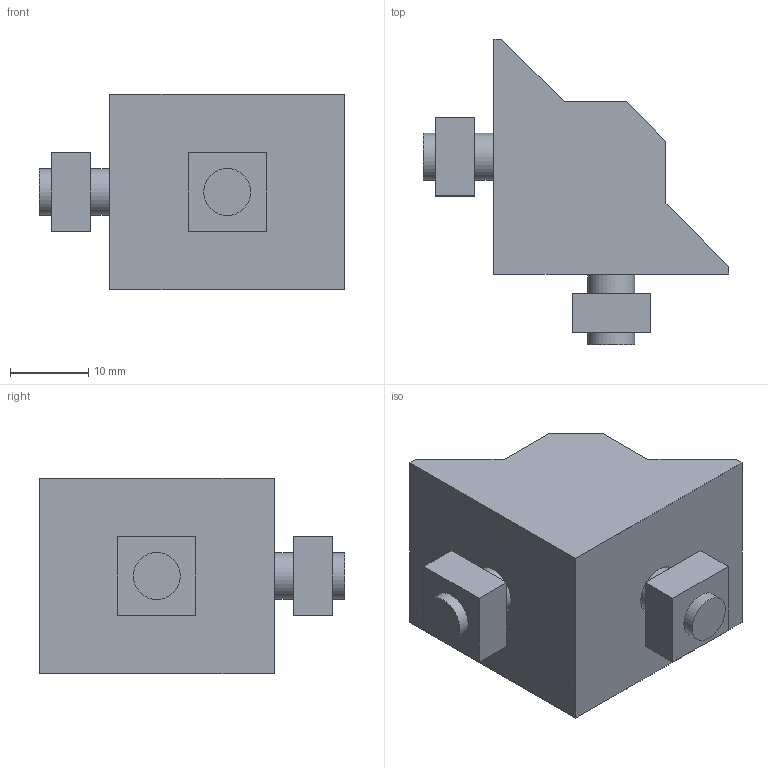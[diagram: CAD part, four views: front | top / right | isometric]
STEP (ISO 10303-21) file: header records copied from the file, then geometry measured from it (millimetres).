
FILE_DESCRIPTION((''),'2;1');
FILE_NAME('C:\Documents and Settings\古川典政\My Documents\Inventor\HP用\MasterData\BRACKET\M6\ABLB-3025-6.stp','2008-07-31T09:17:37',(''),(''),'Autodesk Inventor 2008','Autodesk Inventor 2008','');
FILE_SCHEMA(('CONFIG_CONTROL_DESIGN'));
Length unit declared in the file: millimetre
Products named in the file (6): ABLB-3025-6; ABLB-3025-61; ABLB-3025-62; ABLB-3025-63; ABLB-3025-64; ABLB-3025-65
Assembly tree (5 placements, depth 2):
  ABLB-3025-6
    ABLB-3025-61
    ABLB-3025-62
    ABLB-3025-63
    ABLB-3025-64
    ABLB-3025-65
Bounding box: 39 x 39 x 25 mm (x, y, z)
Volume: 13238.4 mm3; surface area: 6556.5 mm2
Topology: 5 solids, 5 shells, 46 faces, 100 edges, 66 vertices
Faces by surface type: plane 32, bspline 10, cylinder 4
Full cylindrical faces by diameter (mm): 6 x2, 10 x2
Entity records: 1444 total; most frequent: CARTESIAN_POINT 347, DIRECTION 203, ORIENTED_EDGE 172, EDGE_CURVE 86, AXIS2_PLACEMENT_3D 70, EDGE_LOOP 66, VECTOR 63, LINE 63
